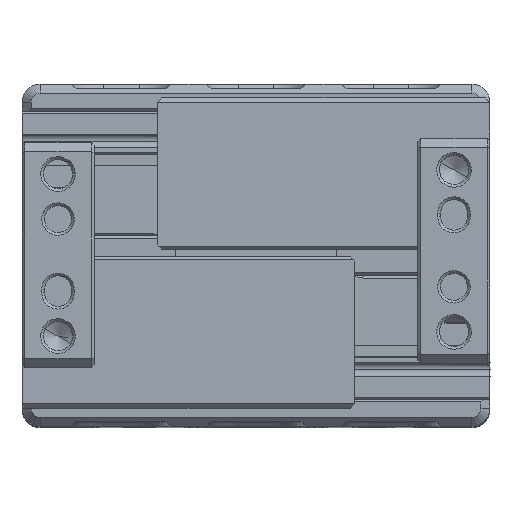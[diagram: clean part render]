
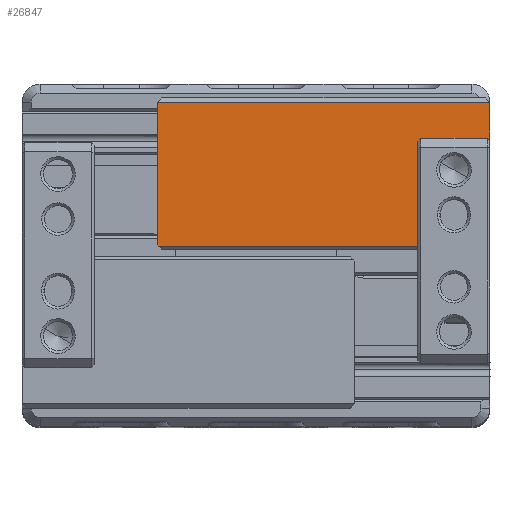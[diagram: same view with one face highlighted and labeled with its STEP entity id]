
A CAD part, top view. The second image highlights one B-rep face of the part: STEP entity #26847.
In plain terms, the highlighted planar face has unit normal (0, 0, 1).
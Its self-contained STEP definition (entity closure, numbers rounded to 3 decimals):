
#26232=CARTESIAN_POINT('Vertex',(21.2,16.5,76.389)) ;
#26235=CARTESIAN_POINT('Line Origine',(21.2,14.35,76.389)) ;
#26239=CARTESIAN_POINT('Vertex',(21.2,12.2,76.389)) ;
#26371=CARTESIAN_POINT('Vertex',(-15.8,0.7,76.389)) ;
#26374=CARTESIAN_POINT('Line Origine',(-15.8,8.6,76.389)) ;
#26378=CARTESIAN_POINT('Vertex',(-15.8,16.5,76.389)) ;
#26791=CARTESIAN_POINT('Axis2P3D Location',(2.7,8.7,76.389)) ;
#26797=CARTESIAN_POINT('Control Point',(13.2,12.2,76.389)) ;
#26798=CARTESIAN_POINT('Control Point',(13.2,0.5,76.389)) ;
#26799=CARTESIAN_POINT('Vertex',(13.2,0.5,76.389)) ;
#26801=CARTESIAN_POINT('Vertex',(13.2,12.2,76.389)) ;
#26805=CARTESIAN_POINT('Control Point',(13.5,12.5,76.389)) ;
#26806=CARTESIAN_POINT('Control Point',(13.2,12.2,76.389)) ;
#26807=CARTESIAN_POINT('Vertex',(13.5,12.5,76.389)) ;
#26811=CARTESIAN_POINT('Control Point',(20.9,12.5,76.389)) ;
#26812=CARTESIAN_POINT('Control Point',(13.5,12.5,76.389)) ;
#26813=CARTESIAN_POINT('Vertex',(20.9,12.5,76.389)) ;
#26817=CARTESIAN_POINT('Control Point',(21.2,12.2,76.389)) ;
#26818=CARTESIAN_POINT('Control Point',(20.9,12.5,76.389)) ;
#26820=CARTESIAN_POINT('Line Origine',(2.7,16.5,76.389)) ;
#26826=CARTESIAN_POINT('Control Point',(-15.6,0.5,76.389)) ;
#26827=CARTESIAN_POINT('Control Point',(-15.8,0.7,76.389)) ;
#26828=CARTESIAN_POINT('Vertex',(-15.6,0.5,76.389)) ;
#26831=CARTESIAN_POINT('Line Origine',(-1.2,0.5,76.389)) ;
#26236=DIRECTION('Vector Direction',(0.,-1.,0.)) ;
#26375=DIRECTION('Vector Direction',(0.,1.,0.)) ;
#26792=DIRECTION('Axis2P3D Direction',(0.,0.,1.)) ;
#26793=DIRECTION('Axis2P3D XDirection',(-1.,0.,0.)) ;
#26821=DIRECTION('Vector Direction',(-1.,0.,0.)) ;
#26832=DIRECTION('Vector Direction',(-1.,0.,0.)) ;
#26794=AXIS2_PLACEMENT_3D('Plane Axis2P3D',#26791,#26792,#26793) ;
#26837=ORIENTED_EDGE('',*,*,#26803,.T.) ;
#26838=ORIENTED_EDGE('',*,*,#26809,.T.) ;
#26839=ORIENTED_EDGE('',*,*,#26815,.T.) ;
#26840=ORIENTED_EDGE('',*,*,#26819,.T.) ;
#26841=ORIENTED_EDGE('',*,*,#26241,.T.) ;
#26842=ORIENTED_EDGE('',*,*,#26824,.T.) ;
#26843=ORIENTED_EDGE('',*,*,#26380,.T.) ;
#26844=ORIENTED_EDGE('',*,*,#26830,.T.) ;
#26845=ORIENTED_EDGE('',*,*,#26835,.T.) ;
#26237=VECTOR('Line Direction',#26236,1.) ;
#26376=VECTOR('Line Direction',#26375,1.) ;
#26822=VECTOR('Line Direction',#26821,1.) ;
#26833=VECTOR('Line Direction',#26832,1.) ;
#26847=ADVANCED_FACE('\X2\96F64EF651E04F554F53\X0\',(#26846),#26795,.T.) ;
#26796=B_SPLINE_CURVE_WITH_KNOTS('',1,(#26797,#26798),.UNSPECIFIED.,.F.,.U.,(2,2),(0.,11.7),.UNSPECIFIED.) ;
#26804=B_SPLINE_CURVE_WITH_KNOTS('',1,(#26805,#26806),.UNSPECIFIED.,.F.,.U.,(2,2),(0.,0.424),.UNSPECIFIED.) ;
#26810=B_SPLINE_CURVE_WITH_KNOTS('',1,(#26811,#26812),.UNSPECIFIED.,.F.,.U.,(2,2),(0.,7.4),.UNSPECIFIED.) ;
#26816=B_SPLINE_CURVE_WITH_KNOTS('',1,(#26817,#26818),.UNSPECIFIED.,.F.,.U.,(2,2),(0.,0.424),.UNSPECIFIED.) ;
#26825=B_SPLINE_CURVE_WITH_KNOTS('',1,(#26826,#26827),.UNSPECIFIED.,.F.,.U.,(2,2),(0.424,0.707),.UNSPECIFIED.) ;
#26241=EDGE_CURVE('',#26240,#26233,#26238,.F.) ;
#26380=EDGE_CURVE('',#26379,#26372,#26377,.F.) ;
#26803=EDGE_CURVE('',#26800,#26802,#26796,.F.) ;
#26809=EDGE_CURVE('',#26802,#26808,#26804,.F.) ;
#26815=EDGE_CURVE('',#26808,#26814,#26810,.F.) ;
#26819=EDGE_CURVE('',#26814,#26240,#26816,.F.) ;
#26824=EDGE_CURVE('',#26233,#26379,#26823,.T.) ;
#26830=EDGE_CURVE('',#26372,#26829,#26825,.F.) ;
#26835=EDGE_CURVE('',#26829,#26800,#26834,.F.) ;
#26836=EDGE_LOOP('',(#26837,#26838,#26839,#26840,#26841,#26842,#26843,#26844,#26845)) ;
#26846=FACE_OUTER_BOUND('',#26836,.T.) ;
#26238=LINE('Line',#26235,#26237) ;
#26377=LINE('Line',#26374,#26376) ;
#26823=LINE('Line',#26820,#26822) ;
#26834=LINE('Line',#26831,#26833) ;
#26795=PLANE('Plane',#26794) ;
#26233=VERTEX_POINT('',#26232) ;
#26240=VERTEX_POINT('',#26239) ;
#26372=VERTEX_POINT('',#26371) ;
#26379=VERTEX_POINT('',#26378) ;
#26800=VERTEX_POINT('',#26799) ;
#26802=VERTEX_POINT('',#26801) ;
#26808=VERTEX_POINT('',#26807) ;
#26814=VERTEX_POINT('',#26813) ;
#26829=VERTEX_POINT('',#26828) ;
